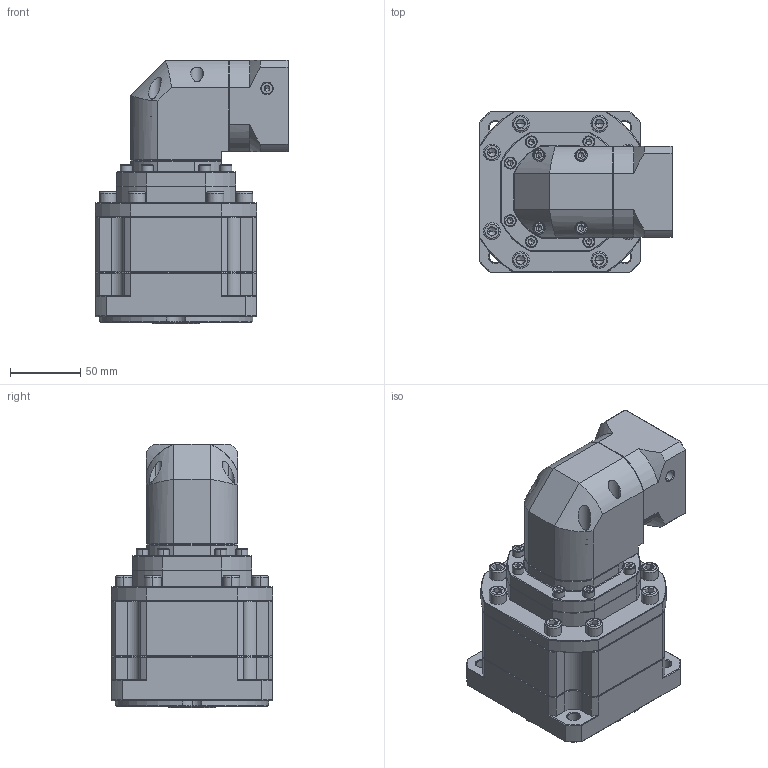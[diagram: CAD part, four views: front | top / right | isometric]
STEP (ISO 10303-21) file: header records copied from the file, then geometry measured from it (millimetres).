
FILE_DESCRIPTION (( 'STEP AP214' ), '1' );
FILE_NAME ('ZBR115A-K25-L3-P2-11-60-75-M5.step', '2023-08-26T14:08:30', ( '' ), ( '' ), 'SwSTEP 2.0', 'SolidWorks 2016', '' );
FILE_SCHEMA (( 'AUTOMOTIVE_DESIGN' ));
Length unit declared in the file: millimetre
Products named in the file (1): ZBR115A-K25-L3-P2-11-60-75-M5
Bounding box: 137.7 x 115 x 187.5 mm (x, y, z)
Volume: 1522640.9 mm3; surface area: 144260.5 mm2
Topology: 6 solids, 6 shells, 2581 faces, 6777 edges, 4316 vertices
Faces by surface type: plane 1292, cylinder 452, bspline 446, cone 383, torus 8
Entity records: 131546 total; most frequent: CARTESIAN_POINT 42941, ORIENTED_EDGE 13434, DIRECTION 10930, EDGE_CURVE 6717, VERTEX_POINT 4316, LINE 4312, VECTOR 4312, AXIS2_PLACEMENT_3D 3309
